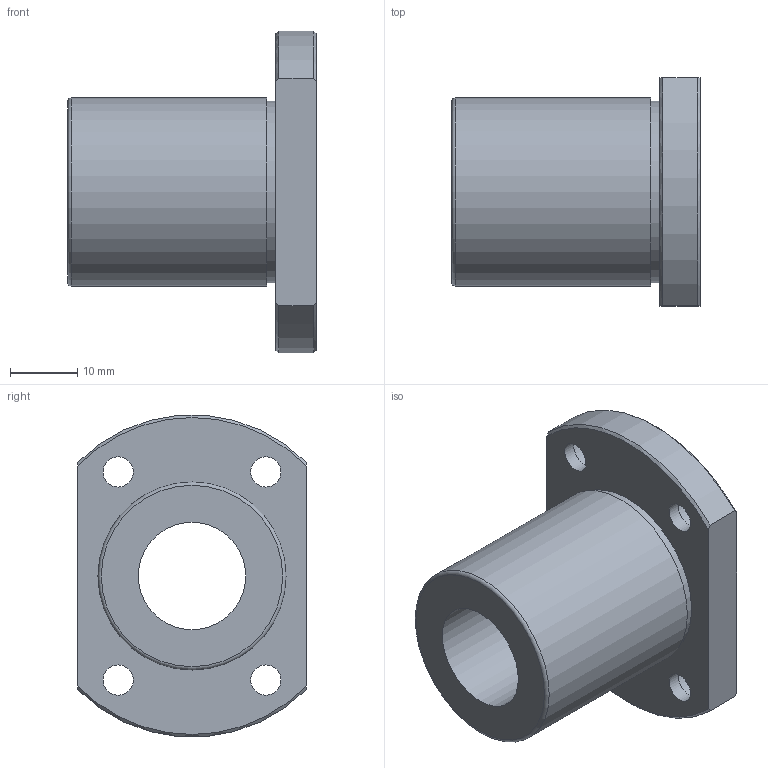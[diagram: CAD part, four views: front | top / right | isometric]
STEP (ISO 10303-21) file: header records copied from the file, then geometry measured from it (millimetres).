
FILE_DESCRIPTION(('STEP AP203'),'1');
FILE_NAME('//192.168.1.1/share/s-4 技術開発/s-4-4_CAD/s-4-4-3_見直し済み/002 修正済み/NFEO-V(済)/NFEO-V_TOP/NFEO-16VUU.step','2022-03-08T01:29:34',(' '),(' '),'Spatial InterOp 3D',' ',' ');
FILE_SCHEMA(('CONFIG_CONTROL_DESIGN'));
Length unit declared in the file: millimetre
Products named in the file (1): 1
Bounding box: 37 x 34 x 47.82 mm (x, y, z)
Volume: 19623 mm3; surface area: 8403.5 mm2
Topology: 1 solids, 1 shells, 28 faces, 59 edges, 39 vertices
Faces by surface type: cylinder 13, plane 10, cone 4, torus 1
Full cylindrical faces by diameter (mm): 4.5 x4, 7.5 x4, 16 x1, 27 x1, 28 x1
Entity records: 778 total; most frequent: CARTESIAN_POINT 139, DIRECTION 128, ORIENTED_EDGE 94, AXIS2_PLACEMENT_3D 60, EDGE_LOOP 56, EDGE_CURVE 47, FACE_OUTER_BOUND 40, VERTEX_POINT 39
